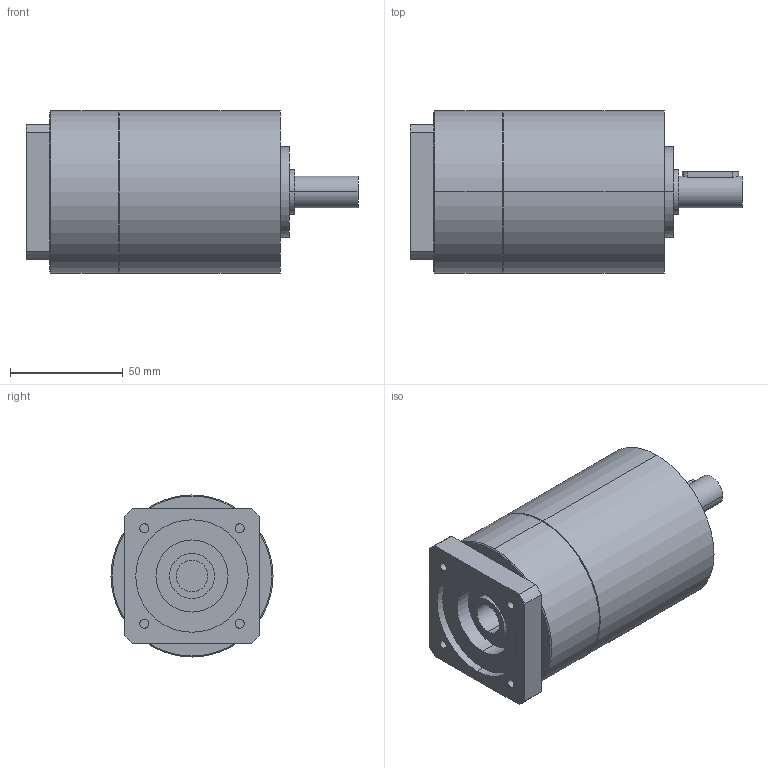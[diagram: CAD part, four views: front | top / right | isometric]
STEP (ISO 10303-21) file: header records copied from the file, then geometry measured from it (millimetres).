
FILE_DESCRIPTION(('CoCreate Modeling STEP Export'),'2;1');
FILE_NAME('GPT75_ig-9-12-16-20-25-28-35-40-50-70-100_14_B14T_14_P18.stp','2014-08-27T13:17:09',(''),(''),'CoCreate Modeling STEP processor for AP214 (Solid Model)','CoCreate Modeling 16.00C 25-Feb-2009 (C) Parametric Technology GmbH','');
FILE_SCHEMA(('AUTOMOTIVE_DESIGN { 1 0 10303 214 1 1 1 1 }'));
Length unit declared in the file: millimetre
Products named in the file (2): GPT75_ig-9-12-16-20-25-28-35-40-50-70-100_14_B14T_14_P18
Assembly tree (1 placements, depth 2):
  GPT75_ig-9-12-16-20-25-28-35-40-50-70-100_14_B14T_14_P18
    GPT75_ig-9-12-16-20-25-28-35-40-50-70-100_14_B14T_14_P18
Bounding box: 147.5 x 72 x 72 mm (x, y, z)
Volume: 447322 mm3; surface area: 40465.5 mm2
Topology: 1 solids, 1 shells, 80 faces, 182 edges, 121 vertices
Faces by surface type: cylinder 42, plane 34, cone 4
Entity records: 2269 total; most frequent: CARTESIAN_POINT 677, ORIENTED_EDGE 364, DIRECTION 268, EDGE_CURVE 182, VERTEX_POINT 121, AXIS2_PLACEMENT_3D 100, EDGE_LOOP 97, FACE_OUTER_BOUND 80
